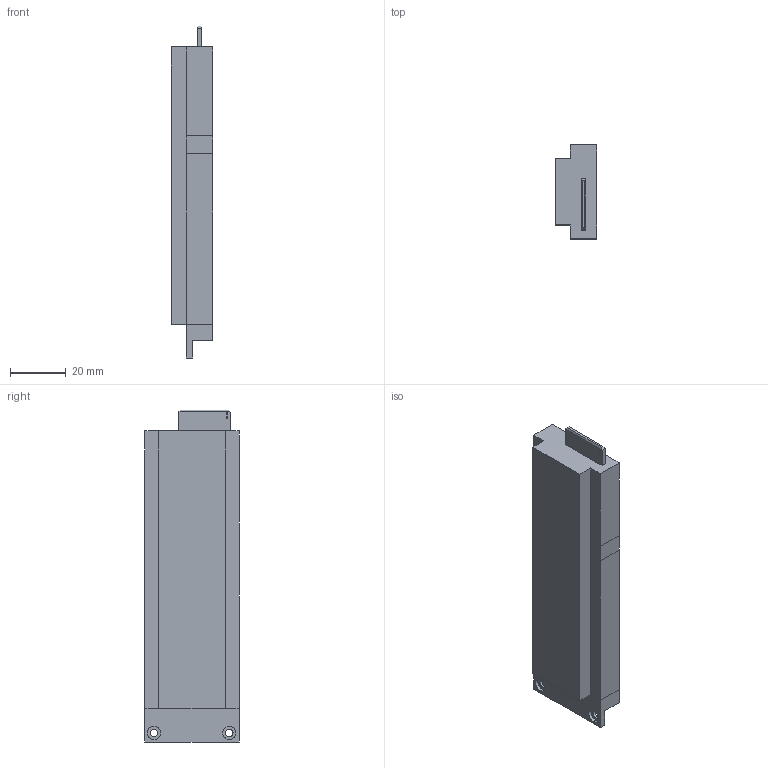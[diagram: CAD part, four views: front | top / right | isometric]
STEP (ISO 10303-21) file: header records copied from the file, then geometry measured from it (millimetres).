
FILE_DESCRIPTION (( 'STEP AP214' ), '1' );
FILE_NAME ('260826 E1.S_15.STEP', '2026-08-26T21:08:59', ( '' ), ( '' ), 'SwSTEP 2.0', 'SolidWorks 2022', '' );
FILE_SCHEMA (( 'AUTOMOTIVE_DESIGN' ));
Length unit declared in the file: millimetre
Products named in the file (1): 260826 E1.S_15
Bounding box: 15 x 33.75 x 118.75 mm (x, y, z)
Volume: 47245.9 mm3; surface area: 11926.6 mm2
Topology: 2 solids, 2 shells, 53 faces, 131 edges, 88 vertices
Faces by surface type: plane 45, cylinder 8
Entity records: 1729 total; most frequent: CARTESIAN_POINT 273, ORIENTED_EDGE 262, DIRECTION 255, EDGE_CURVE 131, LINE 115, VECTOR 115, VERTEX_POINT 88, AXIS2_PLACEMENT_3D 70
